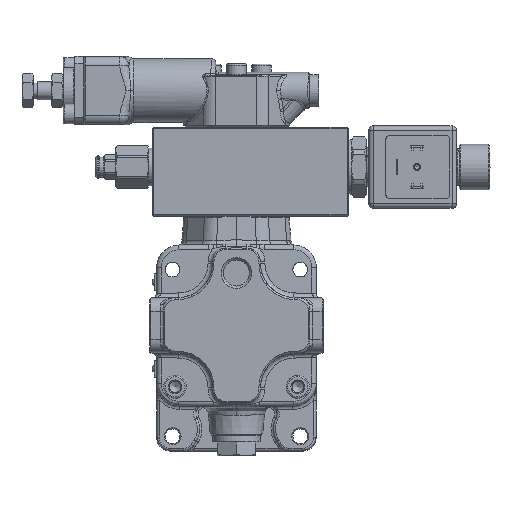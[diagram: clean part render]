
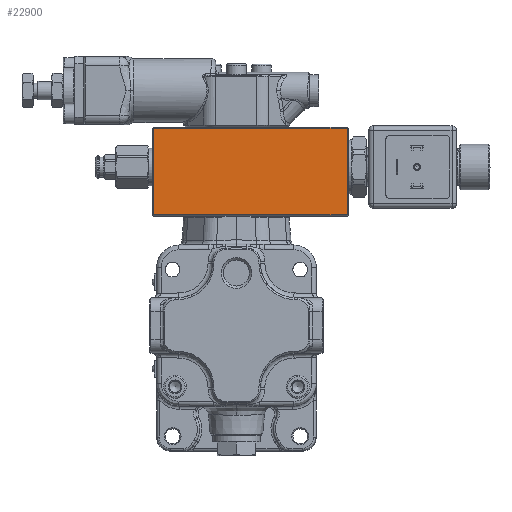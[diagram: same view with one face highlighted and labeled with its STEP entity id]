
A CAD part, top view. The second image highlights one B-rep face of the part: STEP entity #22900.
In plain terms, the highlighted planar face has unit normal (0, 0, 1).
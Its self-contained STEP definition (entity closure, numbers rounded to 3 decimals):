
#1532=PLANE('',#24482);
#2229=FACE_OUTER_BOUND('',#3643,.T.);
#3643=EDGE_LOOP('',(#15663,#15664,#15665,#15666));
#5366=LINE('',#34397,#6924);
#5370=LINE('',#34405,#6928);
#5388=LINE('',#34437,#6946);
#5389=LINE('',#34439,#6947);
#6924=VECTOR('',#27450,10.);
#6928=VECTOR('',#27458,10.);
#6946=VECTOR('',#27490,10.);
#6947=VECTOR('',#27493,10.);
#9458=VERTEX_POINT('',#34375);
#9464=VERTEX_POINT('',#34390);
#9466=VERTEX_POINT('',#34399);
#9474=VERTEX_POINT('',#34432);
#11692=EDGE_CURVE('',#9458,#9464,#5366,.T.);
#11696=EDGE_CURVE('',#9466,#9458,#5370,.T.);
#11714=EDGE_CURVE('',#9464,#9474,#5388,.T.);
#11715=EDGE_CURVE('',#9474,#9466,#5389,.T.);
#15663=ORIENTED_EDGE('',*,*,#11692,.F.);
#15664=ORIENTED_EDGE('',*,*,#11696,.F.);
#15665=ORIENTED_EDGE('',*,*,#11715,.F.);
#15666=ORIENTED_EDGE('',*,*,#11714,.F.);
#22900=ADVANCED_FACE('',(#2229),#1532,.T.);
#24482=AXIS2_PLACEMENT_3D('',#34458,#27516,#27517);
#27450=DIRECTION('',(-1.,0.,0.));
#27458=DIRECTION('',(0.,-1.,0.));
#27490=DIRECTION('',(0.,1.,0.));
#27493=DIRECTION('',(1.,0.,0.));
#27516=DIRECTION('center_axis',(0.,0.,
1.));
#27517=DIRECTION('ref_axis',(1.,0.,0.));
#34375=CARTESIAN_POINT('',(39.884,48.811,14.052));
#34390=CARTESIAN_POINT('',(-45.116,48.811,14.052));
#34397=CARTESIAN_POINT('',(-24.116,48.811,14.052));
#34399=CARTESIAN_POINT('',(39.884,86.811,14.052));
#34405=CARTESIAN_POINT('',(39.884,48.311,14.052));
#34432=CARTESIAN_POINT('',(-45.116,86.811,14.052));
#34437=CARTESIAN_POINT('',(-45.116,48.311,14.052));
#34439=CARTESIAN_POINT('',(-24.116,86.811,14.052));
#34458=CARTESIAN_POINT('Origin',(-45.616,48.311,14.052));
